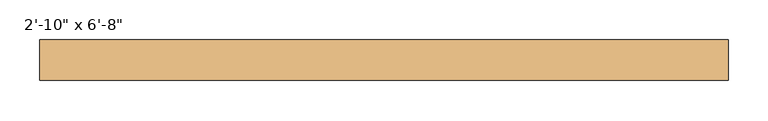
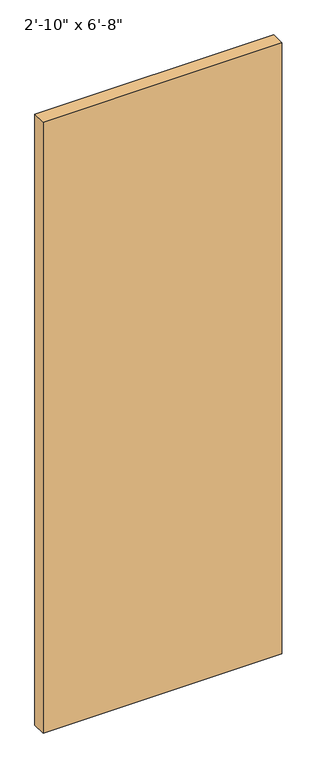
"""IFC4 building model written with IfcOpenShell, lengths in millimetres: door geometry."""

from ifc_helpers import new_model, si_unit, origin, origin_with_axes, place, context, project, spatial, polyline, outline, extrude, source, transform, mapped, element, save


def door_68a9ab76(model_context):
    return source(origin(), model_context, "Body", "SweptSolid", [
        extrude(outline(polyline([(432.0, -38.3), (-432.0, -38.3), (-432.0, 12.7), (432.0, 12.7), (432.0, -38.3)])), origin_with_axes(), (0.0, 0.0, 1.0), 2336.8),
    ])


if __name__ == "__main__":
    model = new_model("IFC4")
    model_context = context("Model", 3, world=origin())
    ifc_project = project(units=[si_unit("LENGTHUNIT", "METRE", prefix="MILLI")], contexts=[model_context])
    site = spatial("IfcSite", under=ifc_project)
    building = spatial("IfcBuilding", under=site)
    placement = place(None, origin())
    door_shape = door_68a9ab76(model_context)
    element("IfcDoor", 1, ObjectType="Planitar - Single Door_Flush Panel : 2'-10\" x 6'-8\"", at=placement, inside=building, context=model_context, shape_type="MappedRepresentation", body=[
        mapped(door_shape, transform((0.0, 0.0, 0.0), x_axis=(1.0, 0.0, 0.0), y_axis=(0.0, 1.0, 0.0), z_axis=(0.0, 0.0, 1.0))),
    ])
    save(model, "model.ifc")
